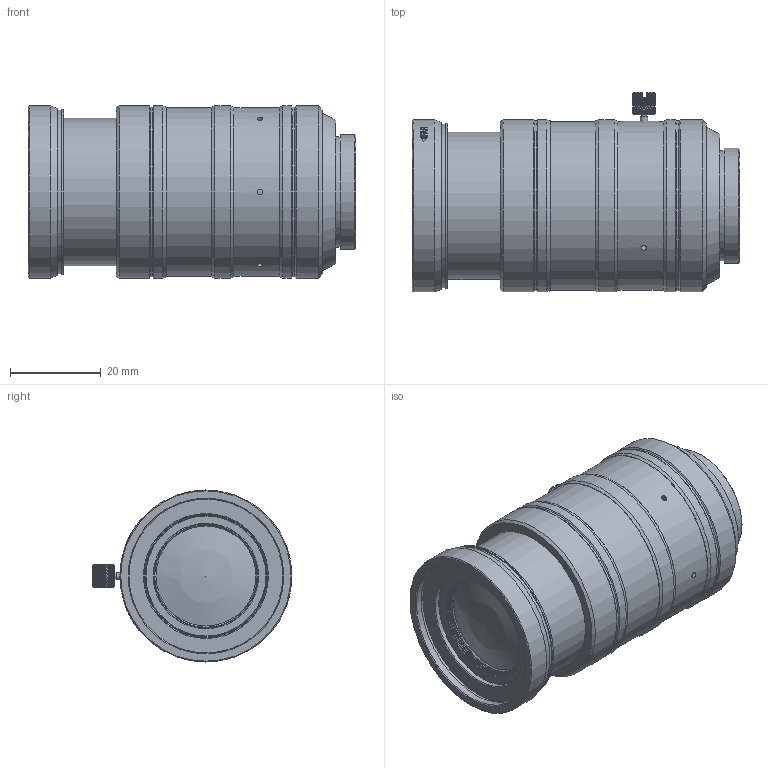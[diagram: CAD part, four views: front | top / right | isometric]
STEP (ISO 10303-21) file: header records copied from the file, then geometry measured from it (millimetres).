
FILE_DESCRIPTION(/* description */ (''),/* implementation_level */ '2;1');
FILE_NAME(/* name */ 'YT60042长.stp',/* time_stamp */ '2023-08-09T18:13:01+08:00',/* author */ (''),/* organization */ (''),/* preprocessor_version */ 'ST-DEVELOPER v16.7',/* originating_system */ 'SIEMENS PLM Software NX 12.0',/* authorisation */ '');
FILE_SCHEMA (('AUTOMOTIVE_DESIGN { 1 0 10303 214 3 1 1 1 }'));
Length unit declared in the file: millimetre
Products named in the file (1): jian4894EB53nnh0
Bounding box: 72.37 x 44.15 x 38 mm (x, y, z)
Volume: 64160.9 mm3; surface area: 19642.5 mm2
Topology: 4 solids, 6 shells, 352 faces, 875 edges, 571 vertices
Faces by surface type: plane 190, cylinder 72, cone 58, extrusion 30, sphere 2
Full cylindrical faces by diameter (mm): 1.2 x2, 1.25 x4, 1.6 x2, 20.474 x2, 22.081 x1, 22.2 x1, 22.4 x1, 22.9 x1, 22.907 x1, 22.954 x1, 23.1 x2, 23.7 x1, 24.3 x1, 25.4 x1, 26.5 x1, 27 x1, 27.2 x2, 28.31 x2, 31.295 x3, 31.495 x1, 32.495 x2, 32.695 x1, 33.987 x1, 34.687 x1, 36.098 x1, 36.598 x1, 37.295 x1, 37.3 x1, 37.505 x1, 37.535 x1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
Entity records: 10653 total; most frequent: CARTESIAN_POINT 2973, ORIENTED_EDGE 1478, DIRECTION 1463, EDGE_CURVE 739, AXIS2_PLACEMENT_3D 565, VERTEX_POINT 541, EDGE_LOOP 510, ADVANCED_FACE 352
